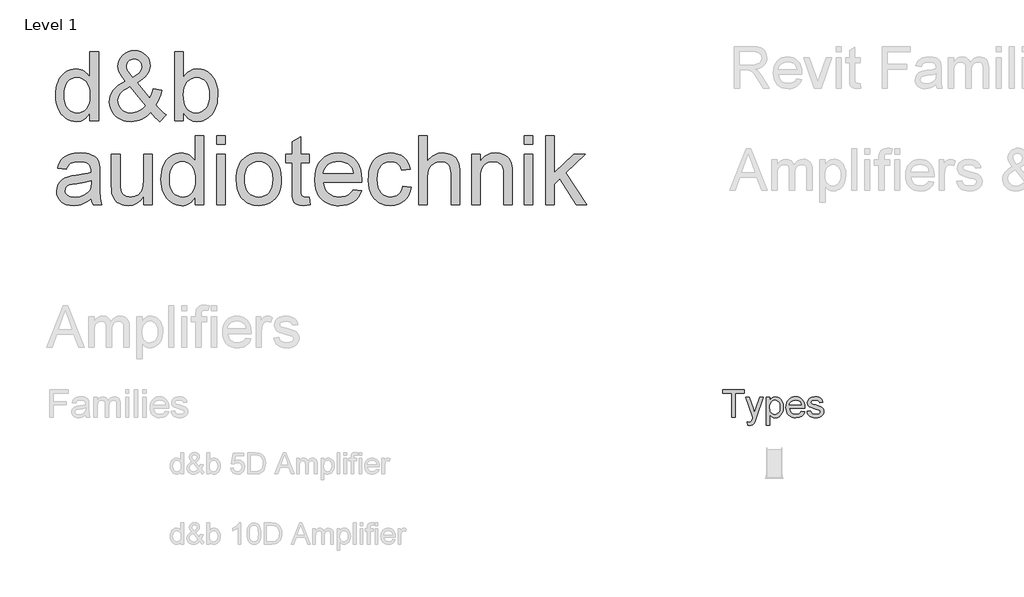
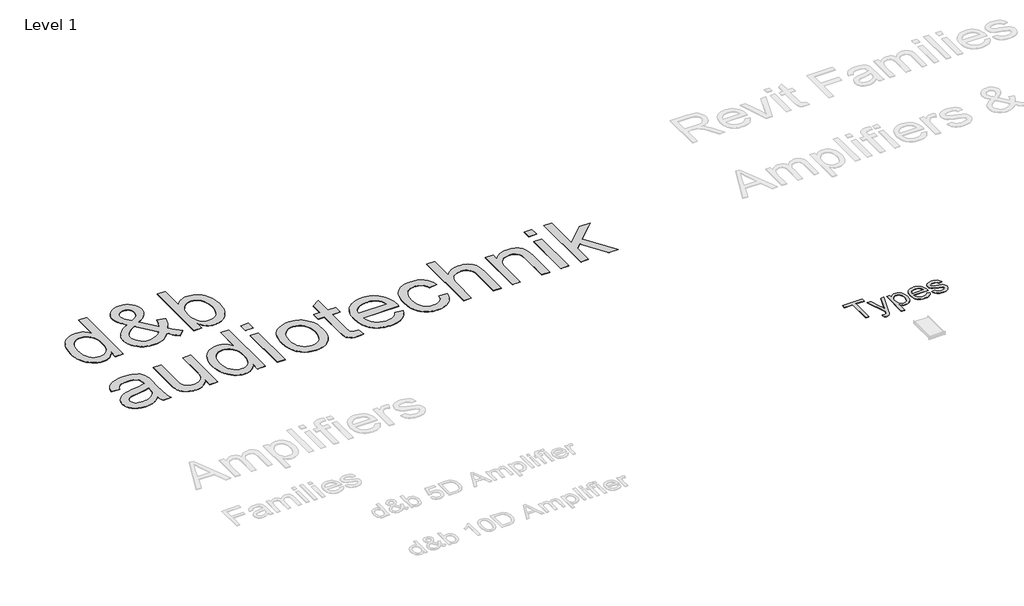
# One storey, part 12 of 14: 2 proxies.
"""IFC4 building model written with IfcOpenShell, lengths in millimetres."""

from ifc_helpers import new_model, si_unit, origin, origin_with_axes, place, context, project, spatial, polyline, outline, extrude, element, save

model = new_model("IFC4")

# Units and contexts
model_context = context("Model", 3, world=origin())
ifc_project = project(units=[si_unit("LENGTHUNIT", "METRE", prefix="MILLI")], contexts=[model_context])

# Site, building, storey
site = spatial("IfcSite", under=ifc_project)
building = spatial("IfcBuilding", under=site)
storey = spatial("IfcBuildingStorey", under=building, Name="Level 1", Elevation=0.0)

# Proxies
placement = place(None, origin())
element("IfcBuildingElementProxy", 1, Name="1000mm Arial", ObjectType="1000mm Arial", at=placement, inside=storey, context=model_context, shape_type="SweptSolid", body=[
    extrude(outline(polyline([(-20485.0918031, 21579.111869), (-20485.0918031, 21694.6019258), (-20502.4384754, 21663.947296), (-20521.720443, 21637.3799502), (-20542.937706, 21614.8998883), (-20566.0902643, 21596.5071105), (-20591.1781179, 21582.2016166), (-20618.2012669, 21571.9834066), (-20647.1597112, 21565.8524807), (-20678.0534508, 21563.8088387), (-20718.4630152, 21566.7678231), (-20757.1988107, 21575.6447762), (-20794.2608372, 21590.4396981), (-20829.6490948, 21611.1525887), (-20862.2577004, 21637.1632569), (-20890.9807709, 21667.8515115), (-20915.8183064, 21703.2173525), (-20936.7703069, 21743.26078), (-20953.4033857, 21787.2196312), (-20965.2841563, 21834.3317435), (-20972.4126187, 21884.597117), (-20974.7887728, 21938.0157516), (-20972.5994233, 21990.4555302), (-20966.0313746, 22040.4145442), (-20955.0846269, 22087.8927935), (-20939.75918, 22132.8902781), (-20920.0625062, 22174.0918939), (-20896.0020777, 22210.1825366), (-20867.5778945, 22241.1622064), (-20834.7899565, 22267.0309031), (-20798.7964521, 22287.429962), (-20760.7555697, 22302.0007184), (-20720.6673091, 22310.7431723), (-20678.5316705, 22313.6573235), (-20647.7163888, 22311.5725845), (-20618.6346535, 22305.3183676), (-20591.2864646, 22294.8946726), (-20565.671822, 22280.3014997), (-20542.0746689, 22262.3757332), (-20520.778948, 22241.9542577), (-20501.7846594, 22219.0370732), (-20485.0918031, 22193.6241796), (-20485.0918031, 22558.5058084), (-20362.6675607, 22558.5058084), (-20362.6675607, 21579.111869), (-20485.0918031, 21579.111869)]), holes=[polyline([(-20852.3645304, 21938.4939713), (-20848.9123819, 21879.1274792), (-20838.5559366, 21827.7562227), (-20821.2951944, 21784.3802017), (-20797.1301554, 21748.9994163), (-20768.2725855, 21721.5391447), (-20736.934251, 21701.9246649), (-20703.1151518, 21690.1559771), (-20666.815288, 21686.2330811), (-20630.3435639, 21689.9766447), (-20596.7262136, 21701.2073354), (-20565.9632372, 21719.9251532), (-20538.0546345, 21746.1300982), (-20514.8833958, 21780.0313914), (-20498.332511, 21821.8382539), (-20488.4019801, 21871.5506859), (-20485.0918031, 21929.1686872), (-20488.4617575, 21992.3385203), (-20498.5716208, 22046.5118453), (-20515.4213929, 22091.6886623), (-20539.0110739, 22127.8689713), (-20567.5323956, 22155.5907693), (-20599.1770896, 22175.3920537), (-20633.945156, 22187.2728242), (-20671.8365948, 22191.2330811), (-20708.8537882, 22187.4297401), (-20742.6728874, 22176.019717), (-20773.2938924, 22157.0030119), (-20800.7168031, 22130.3796247), (-20823.3126838, 22095.5667252), (-20839.4525986, 22051.9814831), (-20849.1365474, 21999.6238985), (-20852.3645304, 21938.4939713)])]), origin_with_axes(), (0.0, 0.0, 1.0), 5.0),
    extrude(outline(polyline([(-19617.362163, 21700.1014523), (-19647.8038355, 21668.157871), (-19679.590501, 21640.4734339), (-19712.7221594, 21617.0481409), (-19747.1988107, 21597.8819921), (-19783.0503436, 21582.9749875), (-19820.3066469, 21572.327127), (-19858.9677205, 21565.9384108), (-19899.0335645, 21563.8088387), (-19935.7219818, 21565.3854693), (-19970.4676317, 21570.1153609), (-20003.270514, 21577.9985138), (-20034.1306289, 21589.0349277), (-20063.0479762, 21603.2246028), (-20090.0225559, 21620.567539), (-20115.0543682, 21641.0637363), (-20138.143413, 21664.7131948), (-20169.42197, 21707.0505823), (-20191.7637965, 21751.8089571), (-20205.1688924, 21798.988319), (-20209.6372577, 21848.5886682), (-20206.0431377, 21892.569936), (-20195.260778, 21934.3693264), (-20177.2901785, 21973.9868394), (-20152.1313391, 22011.4224751), (-20119.829093, 22046.661289), (-20080.4282733, 22079.6883368), (-20033.9288799, 22110.5036185), (-19980.330913, 22139.1071341), (-20033.7420754, 22208.2098804), (-20065.8126838, 22262.9660357), (-20081.8629324, 22309.712011), (-20087.2130152, 22354.7842175), (-20082.9987041, 22397.569936), (-20070.3557709, 22437.4564476), (-20049.2842155, 22474.4437523), (-20019.784038, 22508.5318501), (-19983.9026163, 22537.0905326), (-19943.6873287, 22557.4895915), (-19899.138175, 22569.7290269), (-19850.2551554, 22573.8088387), (-19803.5839018, 22569.9083593), (-19761.3660692, 22558.2069211), (-19723.6016575, 22538.7045241), (-19690.2906667, 22511.4011682), (-19663.0919215, 22478.6281746), (-19643.6642463, 22442.7168643), (-19632.0076412, 22403.6672371), (-19628.1221061, 22361.4792932), (-19630.9988965, 22326.7336434), (-19639.6292676, 22293.273209), (-19654.0132194, 22261.09799), (-19674.150752, 22230.2079864), (-19700.0418653, 22200.6031983), (-19731.6865593, 22172.2836256), (-19769.084834, 22145.2492684), (-19812.2366895, 22119.5001266), (-19635.0562917, 21898.8017364), (-19604.8686734, 21961.866959), (-19582.2130152, 22034.3770205), (-19459.7887728, 22007.8358273), (-19477.213903, 21947.9836434), (-19497.4485739, 21894.4379817), (-19520.4927856, 21847.1988422), (-19546.346538, 21806.2662251), (-19512.6320493, 21763.9138931), (-19476.765572, 21725.0884315), (-19438.7471061, 21689.7898401), (-19398.5766516, 21658.018119), (-19490.3948334, 21563.8088387), (-19521.3745032, 21589.6327023), (-19552.8622813, 21620.9560925), (-19617.362163, 21700.1014523)]), holes=[polyline([(-19874.1661402, 22196.7326076), (-19810.1444783, 22237.3513931), (-19788.4004264, 22255.6657131), (-19773.500894, 22272.6499845), (-19756.2849849, 22306.9921365), (-19750.5463486, 22344.7416038), (-19752.4368108, 22367.2104574), (-19758.1081975, 22387.512378), (-19767.5605087, 22405.6473656), (-19780.7937444, 22421.6154201), (-19796.8664095, 22434.6394347), (-19814.8370091, 22443.9423022), (-19834.705543, 22449.5240228), (-19856.4720114, 22451.3845963), (-19878.7017552, 22449.5389671), (-19899.0036757, 22444.0020797), (-19917.3777732, 22434.773934), (-19933.8240474, 22421.85453), (-19947.3711148, 22406.2750289), (-19957.0475915, 22389.066592), (-19962.8534775, 22370.2292193), (-19964.7887728, 22349.7629107), (-19962.1585645, 22327.9142483), (-19954.2679395, 22304.9298141), (-19941.0571203, 22280.6900532), (-19922.4663296, 22255.0754107), (-19874.1661402, 22196.7326076)]), polyline([(-19699.376841, 21788.3329864), (-19917.9232425, 22061.1573235), (-19963.7202507, 22034.0333001), (-20001.4024684, 22007.8956048), (-20030.9698956, 21982.7442376), (-20052.4225323, 21958.5791985), (-20067.6433686, 21934.967101), (-20078.5153945, 21911.4745584), (-20085.03861, 21888.1015707), (-20087.2130152, 21864.8481379), (-20084.2390865, 21836.2446223), (-20075.3173003, 21807.1031095), (-20060.4476566, 21777.4235996), (-20039.6301554, 21747.2060925), (-20013.3579608, 21720.5304), (-19982.1242368, 21701.476334), (-19945.9289835, 21690.0438943), (-19904.7722008, 21686.2330811), (-19877.2969848, 21688.0114606), (-19849.3883822, 21693.3465991), (-19821.0463929, 21702.2384966), (-19792.2710171, 21714.6871531), (-19764.7210793, 21729.9602947), (-19740.055404, 21747.3256474), (-19718.2739912, 21766.7832113), (-19699.376841, 21788.3329864)])]), origin_with_axes(), (0.0, 0.0, 1.0), 5.0),
    extrude(outline(polyline([(-19153.7281667, 21579.111869), (-19276.1524092, 21579.111869), (-19276.1524092, 22558.5058084), (-19153.7281667, 22558.5058084), (-19153.7281667, 22195.2979485), (-19134.2481863, 22223.0384271), (-19113.468046, 22247.0801751), (-19091.3877459, 22267.4231927), (-19068.0072861, 22284.0674798), (-19043.3266664, 22297.0130364), (-19017.3458869, 22306.2598626), (-18990.0649476, 22311.8079583), (-18961.4838486, 22313.6573235), (-18929.5178507, 22311.9910268), (-18898.418626, 22306.9921365), (-18868.1861746, 22298.6606527), (-18838.8204963, 22286.9965754), (-18811.1734201, 22272.3137363), (-18786.0967747, 22254.925967), (-18763.5905602, 22234.8332675), (-18743.6547766, 22212.0356379), (-18710.3886189, 22158.7440305), (-18685.1924186, 22095.4695868), (-18669.3215024, 22024.8425153), (-18664.031197, 21949.4930243), (-18669.508307, 21862.5467056), (-18676.3546945, 21822.9964423), (-18685.9396369, 21786.0614429), (-18698.2631343, 21751.7417074), (-18713.3251867, 21720.0372359), (-18731.1257941, 21690.9480284), (-18751.6649565, 21664.4740849), (-18797.6861302, 21620.4330397), (-18822.3499374, 21603.1312005), (-18848.1158916, 21588.9751502), (-18874.9839928, 21577.9648889), (-18902.954241, 21570.1004166), (-18932.0266361, 21565.3817332), (-18962.2011781, 21563.8088387), (-18991.8694798, 21565.8375363), (-19019.9013734, 21571.9236292), (-19046.296859, 21582.0671173), (-19071.0559366, 21596.2680006), (-19094.1786062, 21614.5262792), (-19115.6648677, 21636.841953), (-19135.5147213, 21663.2150221), (-19153.7281667, 21693.6454864), (-19153.7281667, 21579.111869)]), holes=[polyline([(-19153.7281667, 21943.7543879), (-19151.6359556, 21888.5797904), (-19145.359322, 21841.6544826), (-19134.8982662, 21802.9784646), (-19120.252788, 21772.5517364), (-19090.5882224, 21734.7873247), (-19056.1115711, 21707.8127449), (-19016.8228341, 21691.6279971), (-18972.7220114, 21686.2330811), (-18936.1083159, 21690.2082823), (-18902.0650512, 21702.133886), (-18870.5922174, 21722.0098922), (-18841.6898145, 21749.8363008), (-18817.5247754, 21785.5383901), (-18800.2640332, 21829.0414381), (-18789.9075879, 21880.345445), (-18786.4554395, 21939.4504107), (-18789.7656164, 21999.6762037), (-18799.6961473, 22051.4733747), (-18816.2470322, 22094.8419234), (-18839.4182709, 22129.7818501), (-18867.2820404, 22156.6667636), (-18897.9105176, 22175.8702733), (-18931.3037024, 22187.3923792), (-18967.4615948, 22191.2330811), (-19004.0752903, 22187.2578799), (-19038.118555, 22175.3322762), (-19069.5913888, 22155.45627), (-19098.4937917, 22127.6298614), (-19122.6588308, 22092.2864369), (-19139.919573, 22049.8593832), (-19150.2760183, 22000.3487002), (-19153.7281667, 21943.7543879)])]), origin_with_axes(), (0.0, 0.0, 1.0), 5.0),
    extrude(outline(polyline([(-20469.7887728, 20473.9603538), (-20498.8182028, 20446.7167755), (-20528.2810195, 20423.8070631), (-20558.1772227, 20405.2312168), (-20588.5068126, 20390.9892364), (-20619.6135094, 20380.42357), (-20651.8410337, 20372.8766654), (-20719.6585645, 20366.8391417), (-20774.1681377, 20370.4706225), (-20821.9676909, 20381.365065), (-20863.0572239, 20399.5224691), (-20897.4367368, 20424.9428349), (-20924.5831768, 20456.0121708), (-20943.9734911, 20491.1164855), (-20955.6076796, 20530.2557788), (-20959.4857425, 20573.4300508), (-20953.6275512, 20624.1811162), (-20936.0529773, 20670.2695394), (-20908.9438983, 20709.7226644), (-20874.4821914, 20740.5678349), (-20833.9829608, 20763.8810451), (-20788.7613107, 20780.7382894), (-20744.7053211, 20790.123351), (-20682.8356478, 20799.1497478), (-20557.6616421, 20818.5176455), (-20509.331564, 20829.4569211), (-20470.5061023, 20841.2330811), (-20469.7887728, 20868.4916038), (-20471.8959283, 20898.1711138), (-20478.217395, 20923.1282042), (-20488.7531727, 20943.3628751), (-20503.5032614, 20958.8751266), (-20528.998349, 20974.3574893), (-20560.0527406, 20985.4163198), (-20596.6664362, 20992.051618), (-20638.8394357, 20994.2633841), (-20678.0534508, 20992.7913641), (-20711.7679395, 20988.3753041), (-20739.9829016, 20981.0152041), (-20762.6983372, 20970.7110641), (-20781.3638497, 20956.6558883), (-20797.4290427, 20938.042681), (-20810.893916, 20914.8714423), (-20821.7584698, 20887.142172), (-20944.1827122, 20902.4452023), (-20934.8649003, 20937.713905), (-20922.9318244, 20969.3959599), (-20908.3834846, 20997.4913671), (-20891.2198808, 21022.0001266), (-20870.7012669, 21043.4154024), (-20846.0878969, 21062.2303586), (-20817.3797707, 21078.4449952), (-20784.5768883, 21092.0593122), (-20748.3442741, 21102.8341997), (-20709.3469523, 21110.530548), (-20667.5849228, 21115.1483569), (-20623.0581857, 21116.6876266), (-20540.2962894, 21111.2478775), (-20505.3488906, 21104.4481912), (-20474.6905247, 21094.9286304), (-20425.2246748, 21070.3899822), (-20406.1631366, 21056.0359191), (-20390.8825228, 21040.29203), (-20368.1073097, 21003.0805598), (-20353.3422766, 20957.2013576), (-20348.8589669, 20914.8789144), (-20347.3645304, 20850.0801455), (-20347.3645304, 20697.767172), (-20345.8103164, 20565.0910948), (-20341.1476743, 20485.0789618), (-20331.9419452, 20432.5046839), (-20316.7584698, 20382.142172), (-20439.1827122, 20382.142172), (-20458.7897198, 20424.7037251), (-20469.7887728, 20473.9603538)]), holes=[polyline([(-20469.7887728, 20718.8088387), (-20552.0425607, 20698.4247241), (-20667.2935077, 20681.2685925), (-20730.8070612, 20671.8835309), (-20772.6213959, 20661.4224751), (-20800.0293623, 20647.8529912), (-20820.3238107, 20629.1426455), (-20832.8770777, 20606.7260972), (-20837.0615001, 20582.0380054), (-20834.7824843, 20563.013828), (-20827.9454371, 20545.6335309), (-20816.5503584, 20529.897114), (-20800.5972482, 20515.8045773), (-20780.2355501, 20504.1928053), (-20755.6147079, 20495.8986824), (-20726.7347215, 20490.9222087), (-20693.595591, 20489.2633841), (-20659.7615474, 20491.0940689), (-20627.8403827, 20496.5861233), (-20597.8320967, 20505.7395471), (-20569.7366895, 20518.5543406), (-20544.3910455, 20533.9694536), (-20522.6320493, 20550.9238363), (-20504.4597008, 20569.4174887), (-20489.8740001, 20589.4504107), (-20481.4005448, 20607.3836493), (-20475.3480768, 20629.1426455), (-20470.5061023, 20684.1379107), (-20469.7887728, 20718.8088387)])]), origin_with_axes(), (0.0, 0.0, 1.0), 5.0),
    extrude(outline(polyline([(-19719.940288, 20382.142172), (-19719.940288, 20505.7619637), (-19741.1762314, 20473.2019273), (-19764.2353874, 20444.9832291), (-19789.117756, 20421.1058691), (-19815.8233372, 20401.5698472), (-19844.352131, 20386.3751636), (-19874.7041374, 20375.5218181), (-19906.8793564, 20369.0098108), (-19940.877788, 20366.8391417), (-20000.5058064, 20372.9364429), (-20028.7730738, 20380.5580693), (-20056.00918, 20391.2283463), (-20102.575823, 20418.7259788), (-20120.7033384, 20434.8061162), (-20135.3936497, 20452.4404675), (-20157.4814219, 20493.388029), (-20171.8579016, 20542.5848804), (-20177.2378732, 20588.972191), (-20179.031197, 20656.4011682), (-20179.031197, 21101.3845963), (-20056.6069546, 21101.3845963), (-20056.6069546, 20714.0266417), (-20054.7538533, 20636.5550508), (-20049.1945493, 20589.2113008), (-20041.864338, 20567.1459451), (-20031.3509769, 20547.5762984), (-20017.6544659, 20530.5023608), (-20000.774805, 20515.9241323), (-19981.2201027, 20504.260055), (-19959.4984674, 20495.9285712), (-19935.6098991, 20490.9296809), (-19909.5543978, 20489.2633841), (-19882.7217895, 20490.9670418), (-19856.74101, 20496.0780148), (-19831.6120594, 20504.5963032), (-19807.3349376, 20516.5219069), (-19785.2247488, 20531.3840784), (-19766.5965971, 20548.7120702), (-19751.4504827, 20568.5058824), (-19739.7864054, 20590.7655148), (-19731.103729, 20616.9106823), (-19724.9018173, 20648.3610996), (-19719.940288, 20727.1776834), (-19719.940288, 21101.3845963), (-19597.5160455, 21101.3845963), (-19597.5160455, 20382.142172), (-19719.940288, 20382.142172)])), origin_with_axes(), (0.0, 0.0, 1.0), 5.0),
    extrude(outline(polyline([(-18985.3948334, 20382.142172), (-18985.3948334, 20497.6322288), (-19002.7415057, 20466.977599), (-19022.0234733, 20440.4102532), (-19043.2407363, 20417.9301914), (-19066.3932946, 20399.5374135), (-19091.4811482, 20385.2319196), (-19118.5042972, 20375.0137097), (-19147.4627415, 20368.8827837), (-19178.3564811, 20366.8391417), (-19218.7660455, 20369.7981261), (-19257.501841, 20378.6750792), (-19294.5638675, 20393.4700011), (-19329.9521251, 20414.1828917), (-19362.5607307, 20440.1935599), (-19391.2838012, 20470.8818145), (-19416.1213367, 20506.2476556), (-19437.0733372, 20546.291083), (-19453.706416, 20590.2499342), (-19465.5871866, 20637.3620466), (-19472.715649, 20687.62742), (-19475.0918031, 20741.0460546), (-19472.9024536, 20793.4858332), (-19466.3344049, 20843.4448472), (-19455.3876572, 20890.9230965), (-19440.0622103, 20935.9205811), (-19420.3655365, 20977.1221969), (-19396.305108, 21013.2128396), (-19367.8809248, 21044.1925094), (-19335.0929868, 21070.0612061), (-19299.0994824, 21090.4602651), (-19261.0586, 21105.0310215), (-19220.9703394, 21113.7734753), (-19178.8347008, 21116.6876266), (-19148.0194191, 21114.6028876), (-19118.9376838, 21108.3486706), (-19091.5894949, 21097.9249756), (-19065.9748523, 21083.3318027), (-19042.3776992, 21065.4060363), (-19021.0819783, 21044.9845608), (-19002.0876897, 21022.0673762), (-18985.3948334, 20996.6544826), (-18985.3948334, 21361.5361114), (-18862.970591, 21361.5361114), (-18862.970591, 20382.142172), (-18985.3948334, 20382.142172)]), holes=[polyline([(-19352.6675607, 20741.5242743), (-19349.2154122, 20682.1577822), (-19338.8589669, 20630.7865257), (-19321.5982247, 20587.4105048), (-19297.4331857, 20552.0297194), (-19268.5756158, 20524.5694477), (-19237.2372813, 20504.954968), (-19203.4181821, 20493.1862801), (-19167.1183183, 20489.2633841), (-19130.6465942, 20493.0069477), (-19097.0292439, 20504.2376384), (-19066.2662675, 20522.9554562), (-19038.3576648, 20549.1604012), (-19015.1864261, 20583.0616944), (-18998.6355413, 20624.868557), (-18988.7050104, 20674.5809889), (-18985.3948334, 20732.1989902), (-18988.7647878, 20795.3688233), (-18998.8746511, 20849.5421483), (-19015.7244233, 20894.7189653), (-19039.3141042, 20930.8992743), (-19067.8354259, 20958.6210724), (-19099.4801199, 20978.4223567), (-19134.2481863, 20990.3031273), (-19172.1396251, 20994.2633841), (-19209.1568185, 20990.4600431), (-19242.9759177, 20979.05002), (-19273.5969227, 20960.0333149), (-19301.0198334, 20933.4099277), (-19323.6157141, 20898.5970282), (-19339.7556289, 20855.0117861), (-19349.4395777, 20802.6542015), (-19352.6675607, 20741.5242743)])]), origin_with_axes(), (0.0, 0.0, 1.0), 5.0),
    extrude(outline(polyline([(-18679.3342273, 20382.142172), (-18679.3342273, 21101.3845963), (-18556.9099849, 21101.3845963), (-18556.9099849, 20382.142172), (-18679.3342273, 20382.142172)])), origin_with_axes(), (0.0, 0.0, 1.0), 5.0),
    extrude(outline(polyline([(-18679.3342273, 21239.111869), (-18679.3342273, 21361.5361114), (-18556.9099849, 21361.5361114), (-18556.9099849, 21239.111869), (-18679.3342273, 21239.111869)])), origin_with_axes(), (0.0, 0.0, 1.0), 5.0),
    extrude(outline(polyline([(-18403.8796819, 20741.7633841), (-18402.2245934, 20789.9477547), (-18397.259328, 20834.9116145), (-18388.9838856, 20876.6549635), (-18377.3982662, 20915.1778018), (-18362.5024698, 20950.4801292), (-18344.2964965, 20982.5619459), (-18322.7803463, 21011.4232519), (-18297.954019, 21037.064047), (-18251.2977098, 21071.8993631), (-18199.7994262, 21096.7817317), (-18143.4591682, 21111.7111528), (-18082.2769357, 21116.6876266), (-18014.7358757, 21110.6276863), (-17983.391937, 21103.0527611), (-17953.6657259, 21092.4478657), (-17925.5572424, 21078.8130002), (-17899.0664865, 21062.1481646), (-17874.1934581, 21042.4533588), (-17850.9381573, 21019.728583), (-17829.8946226, 20994.3325018), (-17811.6568925, 20966.6237801), (-17796.224967, 20936.6024178), (-17783.5988462, 20904.2684149), (-17773.77853, 20869.6217715), (-17766.7640184, 20832.6624875), (-17761.1524092, 20751.8059978), (-17763.6331738, 20686.2749549), (-17771.0754679, 20628.1264287), (-17783.4792913, 20577.3604189), (-17800.844644, 20533.9769258), (-17822.9548328, 20496.5039292), (-17849.5931644, 20463.4694092), (-17880.7596387, 20434.8733658), (-17916.4542558, 20410.7157989), (-17955.2871896, 20391.5197614), (-17995.8686142, 20377.808306), (-18038.1985295, 20369.5814328), (-18082.2769357, 20366.8391417), (-18150.8043238, 20372.8766654), (-18182.4845107, 20380.42357), (-18212.4423594, 20390.9892364), (-18240.6778701, 20404.5736647), (-18267.1910426, 20421.1768548), (-18291.9818769, 20440.7988067), (-18315.0503732, 20463.4395205), (-18335.8697424, 20488.9196637), (-18353.9131957, 20517.059904), (-18369.1807332, 20547.8602414), (-18381.6723547, 20581.3206758), (-18391.3880604, 20617.4412073), (-18398.3278501, 20656.2218358), (-18403.8796819, 20741.7633841)]), holes=[polyline([(-18281.4554395, 20742.002494), (-18277.9136248, 20682.6210576), (-18267.2881809, 20631.204968), (-18249.5791078, 20587.7542252), (-18224.7864054, 20552.2688292), (-18194.6286757, 20524.703947), (-18160.8245209, 20505.0147454), (-18123.3739409, 20493.2012245), (-18082.2769357, 20489.2633841), (-18041.3891516, 20493.223641), (-18004.0880152, 20505.1044116), (-17970.3735266, 20524.9056959), (-17940.2456857, 20552.627494), (-17915.4529833, 20588.4640825), (-17897.7439101, 20632.6097383), (-17887.1184662, 20685.0644613), (-17883.5766516, 20745.8282516), (-17887.1408828, 20803.3266979), (-17897.8335763, 20853.3977947), (-17915.6547322, 20896.0415417), (-17940.6043505, 20931.2579391), (-17970.8442741, 20958.8228213), (-18004.5363462, 20978.5120229), (-18041.6805667, 20990.3255438), (-18082.2769357, 20994.2633841), (-18123.3739409, 20990.3404882), (-18160.8245209, 20978.5718003), (-18194.6286757, 20958.9573206), (-18224.7864054, 20931.4970489), (-18249.5791078, 20896.1162635), (-18267.2881809, 20852.7402426), (-18277.9136248, 20801.3689861), (-18281.4554395, 20742.002494)])]), origin_with_axes(), (0.0, 0.0, 1.0), 5.0),
    extrude(outline(polyline([(-17363.2736213, 20484.2420773), (-17347.970591, 20378.5555243), (-17396.4501128, 20369.7682374), (-17439.549663, 20366.8391417), (-17498.3109082, 20371.920226), (-17522.0873938, 20378.2715814), (-17542.127788, 20387.1634788), (-17573.0925133, 20410.6560215), (-17593.2972955, 20440.4849751), (-17599.7831502, 20461.5415861), (-17604.4159035, 20491.7142601), (-17608.1221061, 20579.407797), (-17608.1221061, 20978.9603538), (-17699.940288, 20978.9603538), (-17699.940288, 21101.3845963), (-17608.1221061, 21101.3845963), (-17608.1221061, 21276.1738955), (-17485.6978637, 21348.1459599), (-17485.6978637, 21101.3845963), (-17363.2736213, 21101.3845963), (-17363.2736213, 20978.9603538), (-17485.6978637, 20978.9603538), (-17485.6978637, 20582.9944448), (-17484.0838722, 20542.7044353), (-17479.2418978, 20519.8694448), (-17470.7833869, 20507.2265115), (-17458.3197861, 20497.5126739), (-17440.655546, 20491.3257066), (-17416.5951175, 20489.2633841), (-17363.2736213, 20484.2420773)])), origin_with_axes(), (0.0, 0.0, 1.0), 5.0),
    extrude(outline(polyline([(-16737.284038, 20596.3845963), (-16617.250894, 20581.081566), (-16635.6548802, 20533.0055421), (-16660.4998879, 20490.6382658), (-16691.7859171, 20453.9797371), (-16729.5129679, 20423.0299561), (-16773.2924867, 20398.4464748), (-16822.7359201, 20380.8868453), (-16877.8432679, 20370.3510676), (-16938.6145304, 20366.8391417), (-16977.6305327, 20368.3541268), (-17014.5767404, 20372.8990819), (-17049.4531534, 20380.4740072), (-17082.2597719, 20391.0789026), (-17112.9965957, 20404.7137681), (-17141.6636248, 20421.3786037), (-17168.2608594, 20441.0734094), (-17192.7882993, 20463.7981853), (-17214.812558, 20489.25778), (-17233.9002489, 20517.1570424), (-17250.0513719, 20547.4959725), (-17263.2659272, 20580.2745702), (-17273.5439146, 20615.4928356), (-17280.8853341, 20653.1507687), (-17286.7584698, 20735.7856379), (-17280.8255567, 20821.2225757), (-17273.4094153, 20860.1414396), (-17263.0268173, 20896.5272336), (-17249.6777628, 20930.3799576), (-17233.3622517, 20961.6996117), (-17214.0802841, 20990.4861958), (-17191.8318599, 21016.7397099), (-17167.2184899, 21040.1650029), (-17140.8416847, 21060.4669234), (-17112.7014444, 21077.6454716), (-17082.797769, 21091.7006474), (-17051.1306585, 21102.6324508), (-17017.7001128, 21110.4408818), (-16982.5061319, 21115.1259404), (-16945.548716, 21116.6876266), (-16909.7999256, 21115.1296765), (-16875.721168, 21110.4558261), (-16843.3124433, 21102.6660756), (-16812.5737515, 21091.7604249), (-16783.5050925, 21077.7388739), (-16756.1064663, 21060.6014227), (-16730.377873, 21040.3480713), (-16706.3193126, 21016.9788198), (-16684.54724, 20990.7850831), (-16665.6781105, 20962.0582764), (-16649.711924, 20930.7983998), (-16636.6486805, 20897.0054533), (-16626.48838, 20860.6794368), (-16619.2310224, 20821.8203503), (-16613.4251364, 20736.5029675), (-16614.142466, 20703.5058084), (-17164.3342273, 20703.5058084), (-17157.2431259, 20654.6526775), (-17143.143117, 20611.866959), (-17122.0342007, 20575.1486528), (-17093.916377, 20544.4977591), (-17060.3438598, 20520.3327201), (-17022.8708632, 20503.0719779), (-16981.4973873, 20492.7155326), (-16936.2234319, 20489.2633841), (-16902.3594996, 20490.8624313), (-16871.0659982, 20495.6595726), (-16842.3429276, 20503.6548082), (-16816.190288, 20514.8481379), (-16792.6080791, 20529.5384492), (-16771.5963012, 20548.0246294), (-16753.1549541, 20570.3066784), (-16737.284038, 20596.3845963)]), holes=[polyline([(-17164.3342273, 20825.9300508), (-16735.8493789, 20825.9300508), (-16742.1409568, 20860.5710901), (-16752.4077359, 20890.6092648), (-16766.6497162, 20916.044575), (-16784.8668978, 20936.8770205), (-16818.2526104, 20961.9835546), (-16856.2411876, 20979.9167932), (-16898.8326293, 20990.6767364), (-16946.0269357, 20994.2633841), (-16989.0741806, 20991.4015381), (-17028.5497221, 20982.8160001), (-17064.4535603, 20968.5067702), (-17096.7856952, 20948.4738482), (-17123.9171908, 20923.6437848), (-17144.2191113, 20894.9431308), (-17157.6914569, 20862.3718862), (-17164.3342273, 20825.9300508)])]), origin_with_axes(), (0.0, 0.0, 1.0), 5.0),
    extrude(outline(polyline([(-16031.9099849, 20642.2936872), (-15909.4857425, 20626.9906569), (-15922.8011722, 20569.2232119), (-15943.6186734, 20518.1060096), (-15971.9382461, 20473.63905), (-16007.7598902, 20435.822333), (-16049.574225, 20405.6421868), (-16095.8718694, 20384.0849395), (-16146.6528235, 20371.1505912), (-16201.9170872, 20366.8391417), (-16270.5789746, 20372.8542488), (-16302.2479532, 20380.3731328), (-16332.1422884, 20390.8995702), (-16360.2619802, 20404.4335613), (-16386.6070286, 20420.9751059), (-16411.1774336, 20440.524204), (-16433.9731952, 20463.0808557), (-16454.5123575, 20488.4470482), (-16472.3129649, 20516.4247685), (-16487.3750173, 20547.0140167), (-16499.6985148, 20580.2147928), (-16509.2834572, 20616.0270967), (-16516.1298447, 20654.4509285), (-16521.6069546, 20739.1331758), (-16519.2681614, 20795.4211286), (-16512.2517818, 20848.0776005), (-16500.5578158, 20897.1025916), (-16484.1862633, 20942.4961019), (-16463.0250417, 20983.3465251), (-16436.9620683, 21018.7422549), (-16405.9973429, 21048.6832912), (-16370.1308656, 21073.1696341), (-16330.9841001, 21092.2087558), (-16290.17851, 21105.8081285), (-16247.7140954, 21113.967752), (-16203.5908561, 21116.6876266), (-16149.2755596, 21112.9515352), (-16100.1459579, 21101.743261), (-16056.2020511, 21083.0628041), (-16017.4438391, 21056.9101644), (-15984.528874, 21023.8831166), (-15958.1147079, 20984.5794353), (-15938.2013409, 20938.9991204), (-15924.7887728, 20887.142172), (-16047.2130152, 20871.8391417), (-16056.769937, 20900.4351852), (-16069.4203424, 20925.2503041), (-16085.1642315, 20946.2844986), (-16104.0016042, 20963.5377686), (-16125.454241, 20976.9802254), (-16149.0439219, 20986.5819803), (-16174.7706472, 20992.3430332), (-16202.6344167, 20994.2633841), (-16244.2320582, 20990.4824597), (-16281.7498879, 20979.1396862), (-16315.1879057, 20960.2350638), (-16344.5461118, 20933.7685925), (-16368.4496245, 20899.1275532), (-16385.5235621, 20855.6992269), (-16395.7679247, 20803.4836138), (-16399.1827122, 20742.4807137), (-16395.8426465, 20680.5587351), (-16385.8224494, 20627.7378751), (-16369.1221209, 20584.0181338), (-16345.7416611, 20549.399511), (-16316.9662852, 20523.0899555), (-16284.0812089, 20504.2974159), (-16247.086432, 20493.0218921), (-16205.9819546, 20489.2633841), (-16172.8577684, 20491.6096495), (-16142.587956, 20498.6484457), (-16115.1725175, 20510.3797726), (-16090.6114527, 20526.8036304), (-16069.5922026, 20548.0993512), (-16052.8022079, 20574.4462677), (-16040.2414687, 20605.8443796), (-16031.9099849, 20642.2936872)])), origin_with_axes(), (0.0, 0.0, 1.0), 5.0),
    extrude(outline(polyline([(-15802.3645304, 20382.142172), (-15802.3645304, 21361.5361114), (-15679.940288, 21361.5361114), (-15679.940288, 21001.4366796), (-15658.1476669, 21028.4486203), (-15634.9726921, 21051.8589689), (-15610.4153634, 21071.6677254), (-15584.4756809, 21087.8748898), (-15557.1536447, 21100.4804622), (-15528.4492546, 21109.4844424), (-15498.3625107, 21114.8868305), (-15466.893413, 21116.6876266), (-15428.6208928, 21114.7224425), (-15392.9486923, 21108.8268903), (-15359.8768114, 21099.00097), (-15329.4052501, 21085.2446815), (-15302.3111154, 21068.0213002), (-15279.3715143, 21047.7941015), (-15260.5864468, 21024.5630853), (-15245.955913, 20998.3282516), (-15234.9718043, 20967.4681367), (-15227.1260124, 20930.3612771), (-15222.4185372, 20887.0076727), (-15220.8493789, 20837.4073235), (-15220.8493789, 20382.142172), (-15343.2736213, 20382.142172), (-15343.2736213, 20824.7345016), (-15345.7095529, 20866.0706166), (-15353.0173476, 20901.369208), (-15365.1970055, 20930.6302757), (-15382.2485266, 20953.8538198), (-15403.768413, 20971.5330042), (-15429.3531667, 20984.160993), (-15459.002788, 20991.7377864), (-15492.7172766, 20994.2633841), (-15518.981999, 20992.5597265), (-15544.4546701, 20987.4487535), (-15569.1352897, 20978.9304651), (-15593.023858, 20967.0048614), (-15614.8276873, 20952.1651064), (-15633.25409, 20934.9043643), (-15648.3030661, 20915.2226349), (-15659.9746156, 20893.1199182), (-15668.7095973, 20867.5799975), (-15674.9488699, 20837.5866559), (-15679.940288, 20764.2397099), (-15679.940288, 20382.142172), (-15802.3645304, 20382.142172)])), origin_with_axes(), (0.0, 0.0, 1.0), 5.0),
    extrude(outline(polyline([(-15052.5160455, 20382.142172), (-15052.5160455, 21101.3845963), (-14930.0918031, 21101.3845963), (-14930.0918031, 21000.9584599), (-14909.8944931, 21028.0824833), (-14887.5601388, 21051.5899703), (-14863.0887403, 21071.4809208), (-14836.4802974, 21087.7553349), (-14807.7348103, 21100.4132125), (-14776.852279, 21109.4545537), (-14743.8327033, 21114.8793583), (-14708.6760834, 21116.6876266), (-14648.3307354, 21110.859324), (-14593.0664717, 21093.3744163), (-14568.3634354, 21080.8062049), (-14546.9780484, 21066.4147809), (-14528.9103104, 21050.2001443), (-14514.1602217, 21032.1622951), (-14491.893117, 20990.7066251), (-14477.4568599, 20942.1374372), (-14472.6148855, 20895.6903491), (-14471.000894, 20823.7780622), (-14471.000894, 20382.142172), (-14593.4251364, 20382.142172), (-14593.4251364, 20807.2794826), (-14596.9520067, 20870.583815), (-14607.5326175, 20915.596244), (-14615.9388231, 20932.6253485), (-14627.0499589, 20947.8461848), (-14657.3870209, 20972.8630527), (-14696.27226, 20988.9133013), (-14741.4341327, 20994.2633841), (-14778.6082419, 20991.2595667), (-14813.1371985, 20982.2481143), (-14845.0210023, 20967.2290269), (-14874.2596535, 20946.2023046), (-14898.6862189, 20916.7768489), (-14916.1337657, 20876.5615612), (-14926.6022938, 20825.5564417), (-14930.0918031, 20763.7614902), (-14930.0918031, 20382.142172), (-15052.5160455, 20382.142172)])), origin_with_axes(), (0.0, 0.0, 1.0), 5.0),
    extrude(outline(polyline([(-14302.6675607, 20382.142172), (-14302.6675607, 21101.3845963), (-14180.2433183, 21101.3845963), (-14180.2433183, 20382.142172), (-14302.6675607, 20382.142172)])), origin_with_axes(), (0.0, 0.0, 1.0), 5.0),
    extrude(outline(polyline([(-14302.6675607, 21239.111869), (-14302.6675607, 21361.5361114), (-14180.2433183, 21361.5361114), (-14180.2433183, 21239.111869), (-14302.6675607, 21239.111869)])), origin_with_axes(), (0.0, 0.0, 1.0), 5.0),
    extrude(outline(polyline([(-13996.6069546, 20382.142172), (-13996.6069546, 21361.5361114), (-13874.1827122, 21361.5361114), (-13874.1827122, 20835.2553349), (-13599.6846061, 21101.3845963), (-13430.3948334, 21101.3845963), (-13708.2404773, 20831.907797), (-13415.0918031, 20382.142172), (-13558.0794925, 20382.142172), (-13795.9937917, 20746.784691), (-13874.1827122, 20670.986869), (-13874.1827122, 20382.142172), (-13996.6069546, 20382.142172)])), origin_with_axes(), (0.0, 0.0, 1.0), 5.0),
])
element("IfcBuildingElementProxy", 2, Name="400mm Arial", ObjectType="400mm Arial", at=placement, inside=storey, context=model_context, shape_type="SweptSolid", body=[
    extrude(outline(polyline([(-11345.9583027, 17351.3054836), (-11345.9583027, 17694.0933624), (-11474.5037572, 17694.0933624), (-11474.5037572, 17743.0630593), (-11168.4431512, 17743.0630593), (-11168.4431512, 17694.0933624), (-11296.9886057, 17694.0933624), (-11296.9886057, 17351.3054836), (-11345.9583027, 17351.3054836)])), origin_with_axes(), (0.0, 0.0, 1.0), 5.0),
    extrude(outline(polyline([(-11119.4734542, 17241.1236654), (-11125.5946663, 17288.2761275), (-11100.7272421, 17283.9721502), (-11087.6479334, 17285.3231209), (-11077.4857648, 17289.3760328), (-11063.2348179, 17304.4399533), (-11049.8446663, 17340.4977184), (-11046.0189088, 17352.3575669), (-11150.0795148, 17639.0024533), (-11098.4317875, 17639.0024533), (-11043.2452345, 17479.2770745), (-11024.0208027, 17415.386923), (-11004.7963709, 17471.8168472), (-10948.0795148, 17639.0024533), (-10896.8143633, 17639.0024533), (-10996.9535679, 17344.4191199), (-11022.9687194, 17280.5289684), (-11036.2871379, 17260.1328983), (-11051.3749694, 17246.0015063), (-11068.9017213, 17237.7522165), (-11089.5369012, 17235.0024533), (-11119.4734542, 17241.1236654)])), origin_with_axes(), (0.0, 0.0, 1.0), 5.0),
    extrude(outline(polyline([(-10856.261333, 17241.1236654), (-10856.261333, 17639.0024533), (-10807.291636, 17639.0024533), (-10807.291636, 17590.9891957), (-10791.3190982, 17614.6730262), (-10773.4336815, 17631.590048), (-10752.5833027, 17641.740261), (-10727.7158785, 17645.1236654), (-10694.5991644, 17640.3892904), (-10665.6429618, 17626.1861654), (-10642.0667307, 17603.3750858), (-10625.0899315, 17572.8168472), (-10614.832119, 17536.7351711), (-10611.4128482, 17497.353779), (-10615.2744722, 17455.4736891), (-10626.8593444, 17418.0171313), (-10645.7968444, 17386.885029), (-10671.7163519, 17363.9783055), (-10701.9039703, 17349.88278), (-10733.6458027, 17345.1842715), (-10756.1579949, 17348.328566), (-10776.2551777, 17357.7614495), (-10793.4591313, 17372.000441), (-10807.291636, 17389.5630593), (-10807.291636, 17241.1236654), (-10856.261333, 17241.1236654)]), holes=[polyline([(-10807.291636, 17492.8585139), (-10801.9953529, 17448.9579457), (-10795.374999, 17431.9572355), (-10786.1065035, 17418.2562411), (-10762.6617828, 17400.1795366), (-10749.2447314, 17395.6603605), (-10734.697886, 17394.1539684), (-10719.9418195, 17395.7141602), (-10706.2796805, 17400.3947355), (-10682.2371853, 17419.1170366), (-10672.6757802, 17433.3141839), (-10665.8462052, 17450.9425574), (-10660.3825451, 17496.4929836), (-10665.7146947, 17540.1544419), (-10672.3798818, 17557.2866625), (-10681.7111436, 17571.2865442), (-10705.1199978, 17589.9371124), (-10718.3846166, 17594.5997544), (-10732.6893633, 17596.1539684), (-10746.9492769, 17594.5011216), (-10760.3663283, 17589.5425811), (-10784.6718444, 17569.7084192), (-10794.5680032, 17554.9882191), (-10801.6366881, 17537.2731682), (-10805.8778991, 17516.5632665), (-10807.291636, 17492.8585139)])]), origin_with_axes(), (0.0, 0.0, 1.0), 5.0),
    extrude(outline(polyline([(-10354.8958027, 17437.0024533), (-10306.8825451, 17430.8812411), (-10314.2441396, 17411.6508316), (-10324.1821427, 17394.7039211), (-10336.6965544, 17380.0405096), (-10351.7873747, 17367.6605972), (-10369.2991822, 17357.8272047), (-10389.0765555, 17350.8033529), (-10435.4279997, 17345.1842715), (-10465.8128837, 17347.6082475), (-10492.8860963, 17354.8801758), (-10516.6476375, 17367.0000563), (-10537.0975072, 17383.9678889), (-10553.5422871, 17405.3114317), (-10565.2885584, 17430.5584429), (-10572.3363212, 17459.7089223), (-10574.6855754, 17492.7628699), (-10572.3124102, 17526.937645), (-10565.1929144, 17557.0595082), (-10553.3270882, 17583.1284594), (-10536.7149315, 17605.1444987), (-10516.3188614, 17622.6353841), (-10493.1012951, 17635.1288737), (-10467.0622326, 17642.6249675), (-10438.2016739, 17645.1236654), (-10410.2706547, 17642.6309452), (-10385.0116881, 17635.1527847), (-10362.4247741, 17622.6891839), (-10342.5099125, 17605.2401427), (-10326.2534317, 17583.2719253), (-10314.6416597, 17557.2507961), (-10307.6745965, 17527.1767549), (-10305.3522421, 17493.0498018), (-10305.6391739, 17479.8509381), (-10525.7158785, 17479.8509381), (-10522.8794379, 17460.3096858), (-10517.2394343, 17443.1953983), (-10508.7958678, 17428.5080759), (-10497.5487383, 17416.2477184), (-10469.1305328, 17399.6774059), (-10434.4715603, 17394.1539684), (-10408.4085868, 17396.7124438), (-10386.4583027, 17404.3878699), (-10368.620708, 17417.6584665), (-10354.8958027, 17437.0024533)]), holes=[polyline([(-10525.7158785, 17528.8206351), (-10354.3219391, 17528.8206351), (-10360.9452819, 17554.6923207), (-10373.9289466, 17573.199423), (-10387.2832317, 17583.2420366), (-10402.4786625, 17590.4153321), (-10438.3929618, 17596.1539684), (-10471.4020764, 17591.5750148), (-10498.6964656, 17577.838154), (-10517.6698321, 17556.4258671), (-10525.7158785, 17528.8206351)])]), origin_with_axes(), (0.0, 0.0, 1.0), 5.0),
    extrude(outline(polyline([(-10274.7461815, 17437.0024533), (-10225.7764845, 17443.1236654), (-10218.0532364, 17422.1776427), (-10203.1088709, 17406.7789684), (-10180.847744, 17397.3102184), (-10151.1742118, 17394.1539684), (-10121.8593444, 17397.0471976), (-10101.2480754, 17405.7268851), (-10089.0534732, 17418.3040631), (-10084.9886057, 17432.8897639), (-10089.0773841, 17445.371298), (-10101.3437194, 17454.8878699), (-10151.7480754, 17468.8518851), (-10225.4895527, 17492.8106919), (-10244.1520764, 17504.8498728), (-10257.6737383, 17520.7865442), (-10265.8871616, 17539.6044893), (-10268.6249694, 17560.2874911), (-10266.4251588, 17579.2608576), (-10259.8257269, 17596.775654), (-10249.4244485, 17612.1384618), (-10235.8190982, 17624.6558624), (-10204.6869959, 17639.1459192), (-10162.5558406, 17645.1236654), (-10130.6824978, 17642.7206114), (-10102.9696663, 17635.5114495), (-10080.6846285, 17624.2015536), (-10065.0946663, 17609.496298), (-10054.7651209, 17590.3077326), (-10048.261333, 17565.5479078), (-10097.23103, 17559.4266957), (-10103.4120196, 17574.8373254), (-10115.6424883, 17586.4461086), (-10134.0419911, 17593.7270035), (-10158.730083, 17596.1539684), (-10186.8494012, 17593.8346029), (-10205.5956133, 17586.8765063), (-10216.1403576, 17576.8338927), (-10219.6552724, 17565.260976), (-10213.8209921, 17551.010029), (-10195.5529997, 17540.2022639), (-10153.3740224, 17529.7770745), (-10081.4976019, 17506.7268851), (-10062.51228, 17495.7039211), (-10048.1178671, 17480.6160896), (-10039.0436483, 17461.4155688), (-10036.0189088, 17438.0545366), (-10039.56969, 17413.9044419), (-10050.2220338, 17391.1890063), (-10067.5694533, 17371.6895982), (-10091.2054618, 17357.1875858), (-10119.7551777, 17348.1851), (-10151.8437194, 17345.1842715), (-10178.1996024, 17346.630886), (-10201.2199031, 17350.9707298), (-10220.9046214, 17358.2038027), (-10237.2537572, 17368.3301048), (-10250.6080423, 17381.3018141), (-10261.308208, 17397.0711086), (-10269.3542544, 17415.6379883), (-10274.7461815, 17437.0024533)])), origin_with_axes(), (0.0, 0.0, 1.0), 5.0),
])

save(model, "model.ifc")
